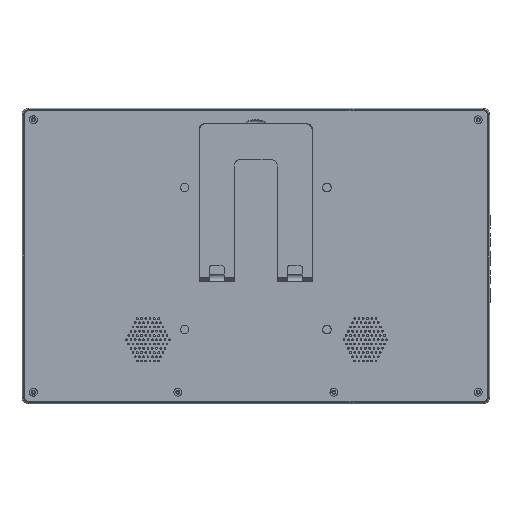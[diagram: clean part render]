
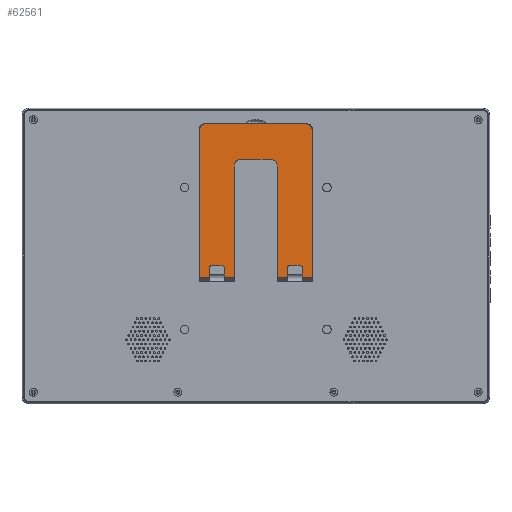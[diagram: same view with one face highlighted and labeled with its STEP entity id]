
A CAD part, front view. The second image highlights one B-rep face of the part: STEP entity #62561.
In plain terms, the highlighted planar face has unit normal (0, -1, 0).
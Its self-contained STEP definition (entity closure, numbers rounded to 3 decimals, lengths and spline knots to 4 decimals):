
#7750=DIRECTION('',(0.,0.,1.));
#7751=VECTOR('',#7750,0.2557);
#7752=CARTESIAN_POINT('',(-0.8996,-0.3858,
-0.5116));
#7753=LINE('',#7752,#7751);
#7788=DIRECTION('',(0.,0.,-1.));
#7789=VECTOR('',#7788,0.2557);
#7790=CARTESIAN_POINT('',(-1.313,-0.3858,
-0.2559));
#7791=LINE('',#7790,#7789);
#7862=DIRECTION('',(0.,0.,1.));
#7863=VECTOR('',#7862,4.0609);
#7864=CARTESIAN_POINT('',(-1.5906,-0.3858,
-0.5116));
#7865=LINE('',#7864,#7863);
#8323=DIRECTION('',(0.,0.,1.));
#8324=VECTOR('',#8323,0.2557);
#8325=CARTESIAN_POINT('',(1.2657,-0.3858,
-0.5116));
#8326=LINE('',#8325,#8324);
#8361=DIRECTION('',(0.,0.,-1.));
#8362=VECTOR('',#8361,0.2557);
#8363=CARTESIAN_POINT('',(0.8524,-0.3858,
-0.2559));
#8364=LINE('',#8363,#8362);
#8439=DIRECTION('',(0.,0.,1.));
#8440=VECTOR('',#8439,3.0766);
#8441=CARTESIAN_POINT('',(0.5748,-0.3858,
-0.5116));
#8442=LINE('',#8441,#8440);
#8706=DIRECTION('',(-1.,0.,0.));
#8707=VECTOR('',#8706,0.2776);
#8708=CARTESIAN_POINT('',(-0.622,-0.3858,
-0.5116));
#8709=LINE('',#8708,#8707);
#8710=CARTESIAN_POINT('',(-1.3937,-0.3858,
3.5492));
#8711=DIRECTION('',(0.,-1.,0.));
#8712=DIRECTION('',(0.,0.,1.));
#8713=AXIS2_PLACEMENT_3D('',#8710,#8711,#8712);
#8715=CARTESIAN_POINT('',(1.3465,-0.3858,
3.5492));
#8716=DIRECTION('',(0.,-1.,0.));
#8717=DIRECTION('',(1.,0.,0.));
#8718=AXIS2_PLACEMENT_3D('',#8715,#8716,#8717);
#8720=DIRECTION('',(0.,0.,1.));
#8721=VECTOR('',#8720,4.0609);
#8722=CARTESIAN_POINT('',(1.5433,-0.3858,
-0.5116));
#8723=LINE('',#8722,#8721);
#8724=CARTESIAN_POINT('',(1.2067,-0.3858,
-0.2559));
#8725=DIRECTION('',(0.,1.,0.));
#8726=DIRECTION('',(0.,0.,1.));
#8727=AXIS2_PLACEMENT_3D('',#8724,#8725,#8726);
#8729=DIRECTION('',(1.,0.,0.));
#8730=VECTOR('',#8729,0.2953);
#8731=CARTESIAN_POINT('',(0.9114,-0.3858,
-0.1969));
#8732=LINE('',#8731,#8730);
#8733=CARTESIAN_POINT('',(0.9114,-0.3858,
-0.2559));
#8734=DIRECTION('',(0.,1.,0.));
#8735=DIRECTION('',(-1.,0.,0.));
#8736=AXIS2_PLACEMENT_3D('',#8733,#8734,#8735);
#8738=CARTESIAN_POINT('',(0.378,-0.3858,
2.565));
#8739=DIRECTION('',(0.,1.,0.));
#8740=DIRECTION('',(0.,0.,1.));
#8741=AXIS2_PLACEMENT_3D('',#8738,#8739,#8740);
#8743=DIRECTION('',(1.,0.,0.));
#8744=VECTOR('',#8743,0.8031);
#8745=CARTESIAN_POINT('',(-0.4252,-0.3858,
2.7618));
#8746=LINE('',#8745,#8744);
#8747=CARTESIAN_POINT('',(-0.4252,-0.3858,
2.565));
#8748=DIRECTION('',(0.,1.,0.));
#8749=DIRECTION('',(-1.,0.,0.));
#8750=AXIS2_PLACEMENT_3D('',#8747,#8748,#8749);
#8752=DIRECTION('',(0.,0.,1.));
#8753=VECTOR('',#8752,3.0766);
#8754=CARTESIAN_POINT('',(-0.622,-0.3858,
-0.5116));
#8755=LINE('',#8754,#8753);
#8756=CARTESIAN_POINT('',(-0.9587,-0.3858,
-0.2559));
#8757=DIRECTION('',(0.,1.,0.));
#8758=DIRECTION('',(0.,0.,1.));
#8759=AXIS2_PLACEMENT_3D('',#8756,#8757,#8758);
#8761=DIRECTION('',(1.,0.,0.));
#8762=VECTOR('',#8761,0.2953);
#8763=CARTESIAN_POINT('',(-1.2539,-0.3858,
-0.1969));
#8764=LINE('',#8763,#8762);
#8765=CARTESIAN_POINT('',(-1.2539,-0.3858,
-0.2559));
#8766=DIRECTION('',(0.,1.,0.));
#8767=DIRECTION('',(-1.,0.,0.));
#8768=AXIS2_PLACEMENT_3D('',#8765,#8766,#8767);
#8774=DIRECTION('',(1.,0.,0.));
#8775=VECTOR('',#8774,2.7402);
#8776=CARTESIAN_POINT('',(-1.3937,-0.3858,
3.7461));
#8777=LINE('',#8776,#8775);
#8843=DIRECTION('',(-1.,0.,0.));
#8844=VECTOR('',#8843,0.2776);
#8845=CARTESIAN_POINT('',(1.5433,-0.3858,
-0.5116));
#8846=LINE('',#8845,#8844);
#9112=DIRECTION('',(-1.,0.,0.));
#9113=VECTOR('',#9112,0.2776);
#9114=CARTESIAN_POINT('',(0.8524,-0.3858,
-0.5116));
#9115=LINE('',#9114,#9113);
#9379=DIRECTION('',(-1.,0.,0.));
#9380=VECTOR('',#9379,0.2776);
#9381=CARTESIAN_POINT('',(-1.313,-0.3858,
-0.5116));
#9382=LINE('',#9381,#9380);
#38547=CARTESIAN_POINT('',(1.5433,-0.3858,
-0.5116));
#38548=CARTESIAN_POINT('',(1.5433,-0.3858,
3.5492));
#38549=VERTEX_POINT('',#38547);
#38550=VERTEX_POINT('',#38548);
#38564=CARTESIAN_POINT('',(-1.5906,-0.3858,
-0.5116));
#38566=VERTEX_POINT('',#38564);
#38567=CARTESIAN_POINT('',(-1.5906,-0.3858,
3.5492));
#38568=VERTEX_POINT('',#38567);
#38571=CARTESIAN_POINT('',(-1.313,-0.3858,
-0.5116));
#38572=VERTEX_POINT('',#38571);
#38573=CARTESIAN_POINT('',(-1.313,-0.3858,
-0.2559));
#38574=VERTEX_POINT('',#38573);
#38575=CARTESIAN_POINT('',(-1.2539,-0.3858,
-0.1969));
#38576=VERTEX_POINT('',#38575);
#38577=CARTESIAN_POINT('',(-0.9587,-0.3858,
-0.1969));
#38578=VERTEX_POINT('',#38577);
#38579=CARTESIAN_POINT('',(-0.8996,-0.3858,
-0.2559));
#38580=VERTEX_POINT('',#38579);
#38581=CARTESIAN_POINT('',(-0.8996,-0.3858,
-0.5116));
#38582=VERTEX_POINT('',#38581);
#38583=CARTESIAN_POINT('',(-0.622,-0.3858,
-0.5116));
#38584=VERTEX_POINT('',#38583);
#38585=CARTESIAN_POINT('',(-0.622,-0.3858,
2.565));
#38586=VERTEX_POINT('',#38585);
#38587=CARTESIAN_POINT('',(-0.4252,-0.3858,
2.7618));
#38588=VERTEX_POINT('',#38587);
#38589=CARTESIAN_POINT('',(0.378,-0.3858,
2.7618));
#38590=VERTEX_POINT('',#38589);
#38591=CARTESIAN_POINT('',(0.5748,-0.3858,
2.565));
#38592=VERTEX_POINT('',#38591);
#38593=CARTESIAN_POINT('',(0.5748,-0.3858,
-0.5116));
#38594=VERTEX_POINT('',#38593);
#38595=CARTESIAN_POINT('',(0.8524,-0.3858,
-0.5116));
#38596=VERTEX_POINT('',#38595);
#38597=CARTESIAN_POINT('',(0.8524,-0.3858,
-0.2559));
#38598=VERTEX_POINT('',#38597);
#38599=CARTESIAN_POINT('',(0.9114,-0.3858,
-0.1969));
#38600=VERTEX_POINT('',#38599);
#38601=CARTESIAN_POINT('',(1.2067,-0.3858,
-0.1969));
#38602=VERTEX_POINT('',#38601);
#38603=CARTESIAN_POINT('',(1.2657,-0.3858,
-0.2559));
#38604=VERTEX_POINT('',#38603);
#38605=CARTESIAN_POINT('',(1.2657,-0.3858,
-0.5116));
#38606=VERTEX_POINT('',#38605);
#38607=CARTESIAN_POINT('',(1.3465,-0.3858,
3.7461));
#38608=VERTEX_POINT('',#38607);
#38609=CARTESIAN_POINT('',(-1.3937,-0.3858,
3.7461));
#38610=VERTEX_POINT('',#38609);
#62516=CARTESIAN_POINT('',(5.315,-0.3858,0.));
#62517=DIRECTION('',(0.,-1.,0.));
#62518=DIRECTION('',(1.,0.,0.));
#62519=AXIS2_PLACEMENT_3D('',#62516,#62517,#62518);
#62520=PLANE('',#62519);
#62521=ORIENTED_EDGE('',*,*,#61091,.T.);
#62522=ORIENTED_EDGE('',*,*,#61130,.F.);
#62524=ORIENTED_EDGE('',*,*,#62523,.T.);
#62526=ORIENTED_EDGE('',*,*,#62525,.F.);
#62527=ORIENTED_EDGE('',*,*,#61197,.F.);
#62529=ORIENTED_EDGE('',*,*,#62528,.T.);
#62530=ORIENTED_EDGE('',*,*,#61802,.T.);
#62532=ORIENTED_EDGE('',*,*,#62531,.F.);
#62534=ORIENTED_EDGE('',*,*,#62533,.F.);
#62536=ORIENTED_EDGE('',*,*,#62535,.F.);
#62537=ORIENTED_EDGE('',*,*,#61853,.T.);
#62539=ORIENTED_EDGE('',*,*,#62538,.T.);
#62540=ORIENTED_EDGE('',*,*,#61990,.T.);
#62542=ORIENTED_EDGE('',*,*,#62541,.F.);
#62544=ORIENTED_EDGE('',*,*,#62543,.F.);
#62546=ORIENTED_EDGE('',*,*,#62545,.F.);
#62547=ORIENTED_EDGE('',*,*,#62459,.F.);
#62548=ORIENTED_EDGE('',*,*,#62510,.T.);
#62549=ORIENTED_EDGE('',*,*,#60905,.T.);
#62551=ORIENTED_EDGE('',*,*,#62550,.F.);
#62553=ORIENTED_EDGE('',*,*,#62552,.F.);
#62555=ORIENTED_EDGE('',*,*,#62554,.F.);
#62556=ORIENTED_EDGE('',*,*,#60956,.T.);
#62558=ORIENTED_EDGE('',*,*,#62557,.T.);
#62559=EDGE_LOOP('',(#62521,#62522,#62524,#62526,#62527,#62529,#62530,#62532,
#62534,#62536,#62537,#62539,#62540,#62542,#62544,#62546,#62547,#62548,#62549,
#62551,#62553,#62555,#62556,#62558));
#62560=FACE_OUTER_BOUND('',#62559,.F.);
#62561=ADVANCED_FACE('',(#62560),#62520,.T.);
#8714=CIRCLE('',#8713,0.1969);
#8719=CIRCLE('',#8718,0.1969);
#8728=CIRCLE('',#8727,0.0591);
#8737=CIRCLE('',#8736,0.0591);
#8742=CIRCLE('',#8741,0.1969);
#8751=CIRCLE('',#8750,0.1969);
#8760=CIRCLE('',#8759,0.0591);
#8769=CIRCLE('',#8768,0.0591);
#60905=EDGE_CURVE('',#38582,#38580,#7753,.T.);
#60956=EDGE_CURVE('',#38574,#38572,#7791,.T.);
#61091=EDGE_CURVE('',#38566,#38568,#7865,.T.);
#61130=EDGE_CURVE('',#38610,#38568,#8714,.T.);
#61197=EDGE_CURVE('',#38549,#38550,#8723,.T.);
#61802=EDGE_CURVE('',#38606,#38604,#8326,.T.);
#61853=EDGE_CURVE('',#38598,#38596,#8364,.T.);
#61990=EDGE_CURVE('',#38594,#38592,#8442,.T.);
#62459=EDGE_CURVE('',#38584,#38586,#8755,.T.);
#62510=EDGE_CURVE('',#38584,#38582,#8709,.T.);
#62523=EDGE_CURVE('',#38610,#38608,#8777,.T.);
#62525=EDGE_CURVE('',#38550,#38608,#8719,.T.);
#62528=EDGE_CURVE('',#38549,#38606,#8846,.T.);
#62531=EDGE_CURVE('',#38602,#38604,#8728,.T.);
#62533=EDGE_CURVE('',#38600,#38602,#8732,.T.);
#62535=EDGE_CURVE('',#38598,#38600,#8737,.T.);
#62538=EDGE_CURVE('',#38596,#38594,#9115,.T.);
#62541=EDGE_CURVE('',#38590,#38592,#8742,.T.);
#62543=EDGE_CURVE('',#38588,#38590,#8746,.T.);
#62545=EDGE_CURVE('',#38586,#38588,#8751,.T.);
#62550=EDGE_CURVE('',#38578,#38580,#8760,.T.);
#62552=EDGE_CURVE('',#38576,#38578,#8764,.T.);
#62554=EDGE_CURVE('',#38574,#38576,#8769,.T.);
#62557=EDGE_CURVE('',#38572,#38566,#9382,.T.);
